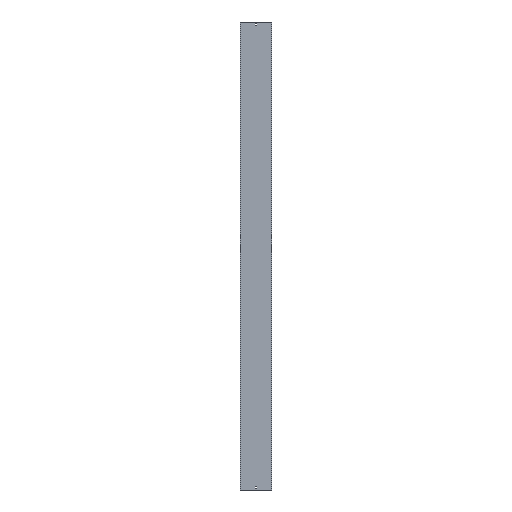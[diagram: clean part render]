
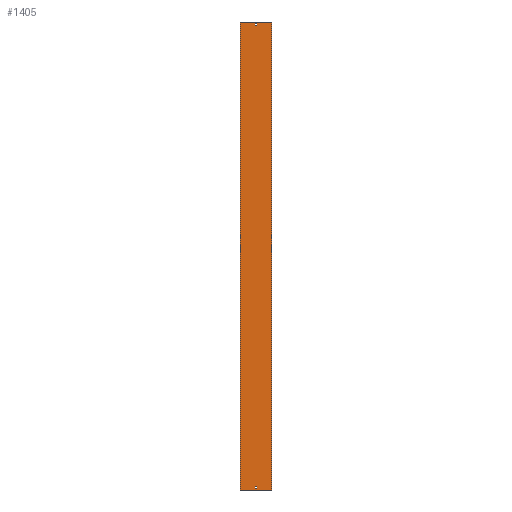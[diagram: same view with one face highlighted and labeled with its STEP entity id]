
A CAD part, front view. The second image highlights one B-rep face of the part: STEP entity #1405.
In plain terms, the highlighted planar face has unit normal (0, -1, 0).
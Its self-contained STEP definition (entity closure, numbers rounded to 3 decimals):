
#45 = VERTEX_POINT ( 'NONE', #634 ) ;
#49 = VECTOR ( 'NONE', #893, 1000. ) ;
#72 = CARTESIAN_POINT ( 'NONE',  ( 3.25, 0., -1488. ) ) ;
#104 = ORIENTED_EDGE ( 'NONE', *, *, #1150, .F. ) ;
#110 = EDGE_CURVE ( 'NONE', #583, #577, #1408, .T. ) ;
#124 = VECTOR ( 'NONE', #1453, 1000. ) ;
#147 = DIRECTION ( 'NONE',  ( 0., 1., 0. ) ) ;
#198 = LINE ( 'NONE', #1105, #237 ) ;
#237 = VECTOR ( 'NONE', #710, 1000. ) ;
#245 = ORIENTED_EDGE ( 'NONE', *, *, #865, .F. ) ;
#252 = VERTEX_POINT ( 'NONE', #567 ) ;
#261 = EDGE_CURVE ( 'NONE', #1593, #867, #541, .T. ) ;
#284 = ORIENTED_EDGE ( 'NONE', *, *, #110, .T. ) ;
#310 = DIRECTION ( 'NONE',  ( 0., 0., 1. ) ) ;
#313 = PLANE ( 'NONE',  #694 ) ;
#349 = CARTESIAN_POINT ( 'NONE',  ( -3.25, 0., -1488. ) ) ;
#351 = VECTOR ( 'NONE', #480, 1000. ) ;
#359 = EDGE_CURVE ( 'NONE', #593, #1593, #958, .T. ) ;
#430 = ORIENTED_EDGE ( 'NONE', *, *, #1160, .T. ) ;
#450 = CARTESIAN_POINT ( 'NONE',  ( 102., 0., 1500. ) ) ;
#451 = EDGE_CURVE ( 'NONE', #925, #1536, #778, .T. ) ;
#460 = LINE ( 'NONE', #450, #1264 ) ;
#479 = EDGE_CURVE ( 'NONE', #1108, #583, #1016, .T. ) ;
#480 = DIRECTION ( 'NONE',  ( 1., 0., 0. ) ) ;
#482 = VECTOR ( 'NONE', #657, 1000. ) ;
#492 = LINE ( 'NONE', #1266, #1649 ) ;
#523 = VERTEX_POINT ( 'NONE', #632 ) ;
#532 = EDGE_LOOP ( 'NONE', ( #715, #245, #1554, #749 ) ) ;
#541 = LINE ( 'NONE', #1607, #124 ) ;
#552 = EDGE_CURVE ( 'NONE', #1108, #252, #492, .T. ) ;
#567 = CARTESIAN_POINT ( 'NONE',  ( 102., 0., 1500. ) ) ;
#569 = CARTESIAN_POINT ( 'NONE',  ( -3.25, 0., -1488. ) ) ;
#571 = FACE_BOUND ( 'NONE', #532, .T. ) ;
#577 = VERTEX_POINT ( 'NONE', #1544 ) ;
#583 = VERTEX_POINT ( 'NONE', #1468 ) ;
#586 = VECTOR ( 'NONE', #1289, 1000. ) ;
#593 = VERTEX_POINT ( 'NONE', #656 ) ;
#602 = ORIENTED_EDGE ( 'NONE', *, *, #261, .T. ) ;
#606 = CARTESIAN_POINT ( 'NONE',  ( -3.25, 0., 1488. ) ) ;
#608 = ORIENTED_EDGE ( 'NONE', *, *, #359, .T. ) ;
#610 = CARTESIAN_POINT ( 'NONE',  ( 3.25, 0., -1479. ) ) ;
#626 = CARTESIAN_POINT ( 'NONE',  ( 3.25, 0., 1479. ) ) ;
#632 = CARTESIAN_POINT ( 'NONE',  ( -3.25, 0., 1479. ) ) ;
#634 = CARTESIAN_POINT ( 'NONE',  ( -3.25, 0., -1488. ) ) ;
#643 = DIRECTION ( 'NONE',  ( 1., 0., 0. ) ) ;
#656 = CARTESIAN_POINT ( 'NONE',  ( -3.25, 0., -1479. ) ) ;
#657 = DIRECTION ( 'NONE',  ( -1., 0., 0. ) ) ;
#687 = CARTESIAN_POINT ( 'NONE',  ( -3.25, 0., 1488. ) ) ;
#694 = AXIS2_PLACEMENT_3D ( 'NONE', #1337, #147, #1330 ) ;
#710 = DIRECTION ( 'NONE',  ( 0., 0., -1. ) ) ;
#715 = ORIENTED_EDGE ( 'NONE', *, *, #1508, .F. ) ;
#720 = VECTOR ( 'NONE', #1611, 1000. ) ;
#722 = VECTOR ( 'NONE', #643, 1000. ) ;
#747 = CARTESIAN_POINT ( 'NONE',  ( -102., 0., -1500. ) ) ;
#749 = ORIENTED_EDGE ( 'NONE', *, *, #451, .F. ) ;
#753 = CARTESIAN_POINT ( 'NONE',  ( -102., 0., 1500. ) ) ;
#778 = LINE ( 'NONE', #1551, #49 ) ;
#782 = CARTESIAN_POINT ( 'NONE',  ( -102., 0., 1500. ) ) ;
#865 = EDGE_CURVE ( 'NONE', #1306, #523, #198, .T. ) ;
#867 = VERTEX_POINT ( 'NONE', #72 ) ;
#893 = DIRECTION ( 'NONE',  ( 0., 0., 1. ) ) ;
#901 = ORIENTED_EDGE ( 'NONE', *, *, #479, .T. ) ;
#925 = VERTEX_POINT ( 'NONE', #626 ) ;
#932 = FACE_BOUND ( 'NONE', #1206, .T. ) ;
#943 = LINE ( 'NONE', #687, #482 ) ;
#950 = LINE ( 'NONE', #1475, #720 ) ;
#958 = LINE ( 'NONE', #1122, #351 ) ;
#962 = DIRECTION ( 'NONE',  ( 0., 0., -1. ) ) ;
#997 = EDGE_LOOP ( 'NONE', ( #284, #104, #1516, #901 ) ) ;
#1008 = DIRECTION ( 'NONE',  ( 1., 0., 0. ) ) ;
#1016 = LINE ( 'NONE', #753, #586 ) ;
#1105 = CARTESIAN_POINT ( 'NONE',  ( -3.25, 0., 1488. ) ) ;
#1108 = VERTEX_POINT ( 'NONE', #782 ) ;
#1122 = CARTESIAN_POINT ( 'NONE',  ( -3.25, 0., -1479. ) ) ;
#1150 = EDGE_CURVE ( 'NONE', #252, #577, #460, .T. ) ;
#1160 = EDGE_CURVE ( 'NONE', #45, #593, #1634, .T. ) ;
#1206 = EDGE_LOOP ( 'NONE', ( #430, #608, #602, #1253 ) ) ;
#1246 = LINE ( 'NONE', #349, #1463 ) ;
#1253 = ORIENTED_EDGE ( 'NONE', *, *, #1283, .T. ) ;
#1264 = VECTOR ( 'NONE', #962, 1000. ) ;
#1266 = CARTESIAN_POINT ( 'NONE',  ( -102., 0., 1500. ) ) ;
#1283 = EDGE_CURVE ( 'NONE', #867, #45, #1246, .T. ) ;
#1289 = DIRECTION ( 'NONE',  ( 0., 0., -1. ) ) ;
#1306 = VERTEX_POINT ( 'NONE', #606 ) ;
#1330 = DIRECTION ( 'NONE',  ( -1., 0., 0. ) ) ;
#1337 = CARTESIAN_POINT ( 'NONE',  ( -102., 0., 1500. ) ) ;
#1347 = VECTOR ( 'NONE', #310, 1000. ) ;
#1405 = ADVANCED_FACE ( 'NONE', ( #1588, #571, #932 ), #313, .F. ) ;
#1408 = LINE ( 'NONE', #747, #722 ) ;
#1423 = EDGE_CURVE ( 'NONE', #1536, #1306, #943, .T. ) ;
#1442 = DIRECTION ( 'NONE',  ( -1., 0., 0. ) ) ;
#1453 = DIRECTION ( 'NONE',  ( 0., 0., -1. ) ) ;
#1463 = VECTOR ( 'NONE', #1442, 1000. ) ;
#1468 = CARTESIAN_POINT ( 'NONE',  ( -102., 0., -1500. ) ) ;
#1475 = CARTESIAN_POINT ( 'NONE',  ( -3.25, 0., 1479. ) ) ;
#1508 = EDGE_CURVE ( 'NONE', #523, #925, #950, .T. ) ;
#1516 = ORIENTED_EDGE ( 'NONE', *, *, #552, .F. ) ;
#1536 = VERTEX_POINT ( 'NONE', #1630 ) ;
#1544 = CARTESIAN_POINT ( 'NONE',  ( 102., 0., -1500. ) ) ;
#1551 = CARTESIAN_POINT ( 'NONE',  ( 3.25, 0., 1488. ) ) ;
#1554 = ORIENTED_EDGE ( 'NONE', *, *, #1423, .F. ) ;
#1588 = FACE_OUTER_BOUND ( 'NONE', #997, .T. ) ;
#1593 = VERTEX_POINT ( 'NONE', #610 ) ;
#1607 = CARTESIAN_POINT ( 'NONE',  ( 3.25, 0., -1488. ) ) ;
#1611 = DIRECTION ( 'NONE',  ( 1., 0., 0. ) ) ;
#1630 = CARTESIAN_POINT ( 'NONE',  ( 3.25, 0., 1488. ) ) ;
#1634 = LINE ( 'NONE', #569, #1347 ) ;
#1649 = VECTOR ( 'NONE', #1008, 1000. ) ;
